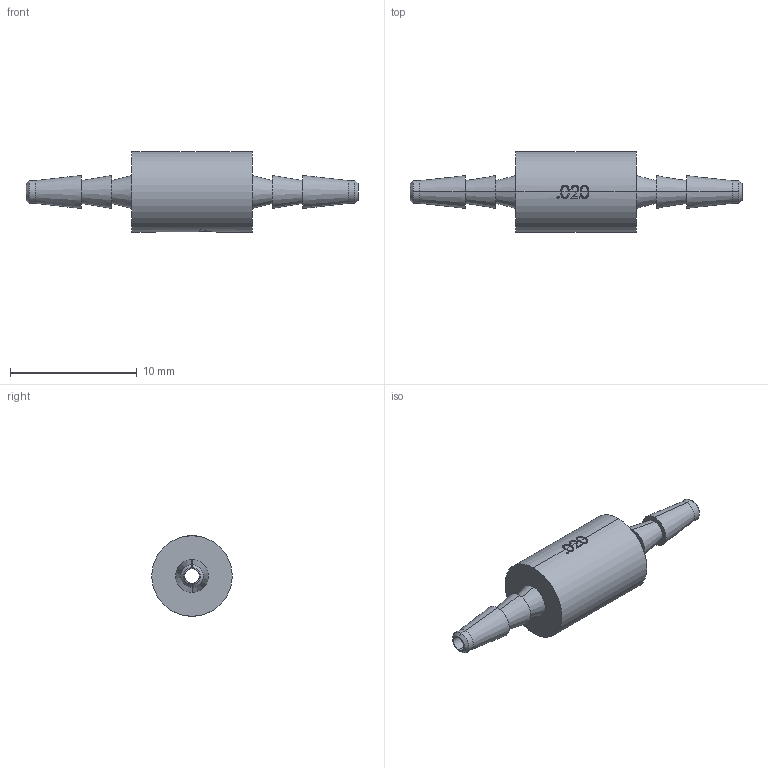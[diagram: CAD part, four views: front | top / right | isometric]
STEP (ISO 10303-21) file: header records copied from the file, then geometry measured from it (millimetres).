
FILE_DESCRIPTION(/* description */ ('SolidWorks IGES file using analytic representation for surfaces '),/* implementation_level */ '2;1');
FILE_NAME(/* name */ 'K:\Normteile INVENTOR\Air-Logic\Orifice restrictors\F-2815-201-B80.IGS.ipt.stp',/* time_stamp */ '2020-05-27T10:46:38+02:00',/* author */ ('cad'),/* organization */ (''),/* preprocessor_version */ 'ST-DEVELOPER v18',/* originating_system */ 'Autodesk Inventor 2020',/* authorisation */ '');
FILE_SCHEMA (('AUTOMOTIVE_DESIGN { 1 0 10303 214 3 1 1 }'));
Length unit declared in the file: millimetre
Products named in the file (1): F-2815-201-B80.IGS
Bounding box: 26.21 x 6.35 x 6.35 mm (x, y, z)
Surface area: 467.1 mm2 (no closed solid volume)
Topology: 0 solids, 85 shells, 85 faces, 421 edges, 421 vertices
Faces by surface type: bspline 32, cylinder 20, plane 17, cone 16
Entity records: 8415 total; most frequent: CARTESIAN_POINT 5254, DIRECTION 474, VERTEX_POINT 421, EDGE_CURVE 421, ORIENTED_EDGE 421, LINE 204, VECTOR 204, B_SPLINE_CURVE_WITH_KNOTS 136
